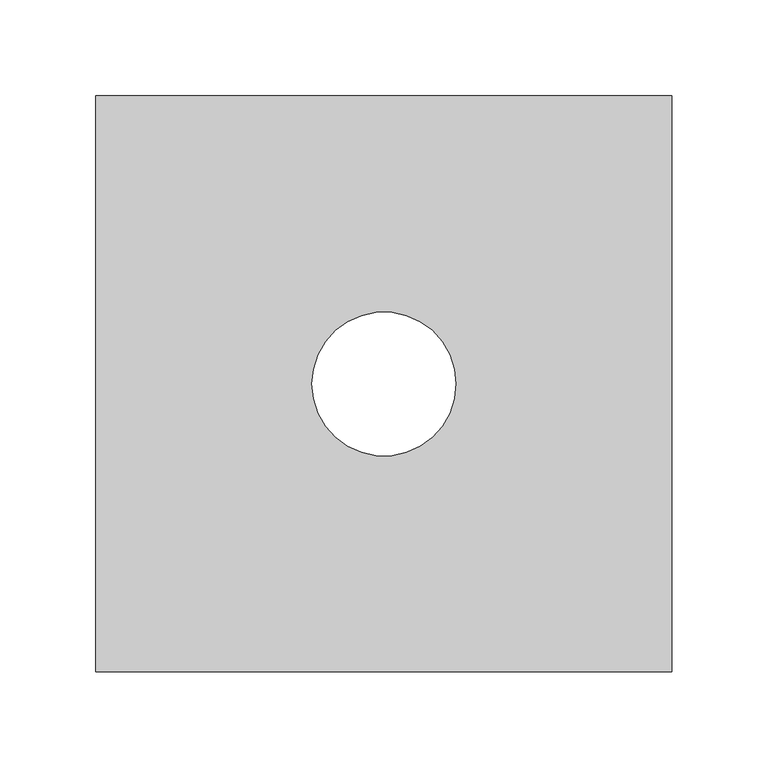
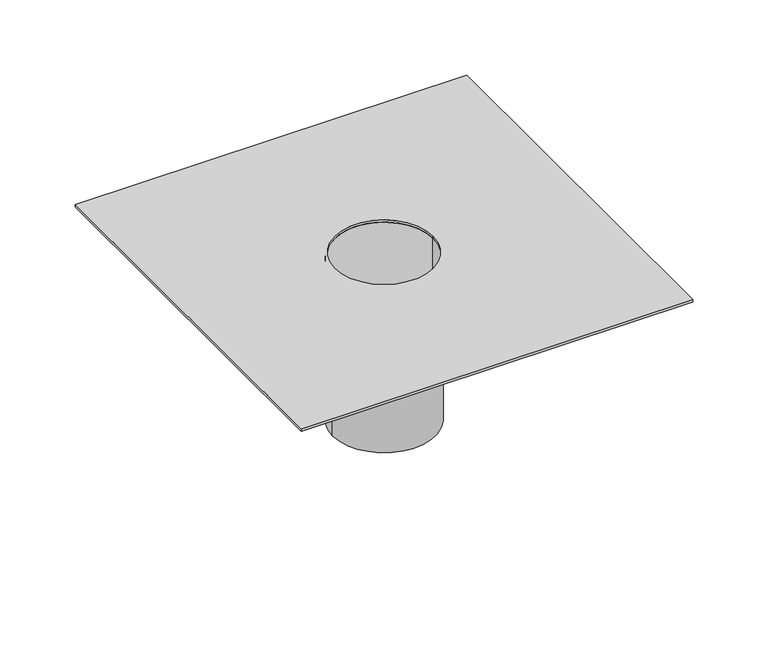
"""IFC4 building model written with IfcOpenShell, lengths in millimetres: proxy geometry, Viaboc Ralo 75mm : Viaboc Ralo 75mm."""

import ifcopenshell
import ifcopenshell.guid

model = None  # the IFC model being written
_history = None  # IfcOwnerHistory: only IFC2X3 demands one
_inside = {}  # id of a spatial element -> (the spatial element, [elements in it])
_under = {}  # id of a project, library or spatial element -> (it, [spatial elements below it])
_declared = {}  # id of a project -> (the project, [libraries it declares])
_typed = {}  # id of a type object -> (the type object, [elements of that type])
_made_of = {}  # id of a material, layer set ... -> (it, [elements and type objects made of it])


def new_model(schema):
    """Start an empty IFC model of exactly this schema.

    Asked for "IFC4X3", IfcOpenShell would pick the latest addendum, in which some entities
    have other attributes; the version numbers below select the first issue.
    IFC2X3 requires an IfcOwnerHistory on every rooted entity: one is made here for all.
    """
    global model, _history
    if schema == "IFC4X3":
        model = ifcopenshell.file(schema_version=(4, 3, 0, 0))
    else:
        model = ifcopenshell.file(schema=schema)
    _inside.clear()
    _under.clear()
    _declared.clear()
    _typed.clear()
    _made_of.clear()
    _history = None
    if model.schema == "IFC2X3":
        org = make("IfcOrganization", Name="unknown")
        user = make(
            "IfcPersonAndOrganization",
            ThePerson=make("IfcPerson", FamilyName="unknown"),
            TheOrganization=org,
        )
        app = make(
            "IfcApplication",
            ApplicationDeveloper=org,
            Version="unknown",
            ApplicationFullName="unknown",
            ApplicationIdentifier="unknown",
        )
        _history = make(
            "IfcOwnerHistory",
            OwningUser=user,
            OwningApplication=app,
            ChangeAction="ADDED",
            CreationDate=0,
        )
    return model


def make(cls, **values):
    """One entity of the class cls with the attributes given. An attribute that is None is left unset."""
    return model.create_entity(
        cls, **{name: value for name, value in values.items() if value is not None}
    )


def rooted(cls, **values):
    """An entity with a GlobalId (a new one), such as an element, a storey or a relation."""
    return make(cls, GlobalId=ifcopenshell.guid.new(), OwnerHistory=_history, **values)


def si_unit(unit_type, name, prefix=None):
    """IfcSIUnit, for example si_unit("LENGTHUNIT", "METRE", prefix="MILLI")."""
    return make("IfcSIUnit", UnitType=unit_type, Prefix=prefix, Name=name)


def assignment(units):
    """IfcUnitAssignment: the units of a project."""
    return None if units is None else make("IfcUnitAssignment", Units=units)


def point(xyz):
    """IfcCartesianPoint."""
    return None if xyz is None else make("IfcCartesianPoint", Coordinates=xyz)


def direction(xyz):
    """IfcDirection."""
    return None if xyz is None else make("IfcDirection", DirectionRatios=xyz)


def frame(location, z_axis=None, x_axis=None):
    """IfcAxis2Placement3D, a coordinate frame: its origin and axes. An axis left out is left unset."""
    return make(
        "IfcAxis2Placement3D",
        Location=point(location),
        Axis=direction(z_axis),
        RefDirection=direction(x_axis),
    )


def frame_2d(location, x_axis=None):
    """IfcAxis2Placement2D, a coordinate frame in the plane: its origin and x axis."""
    return make(
        "IfcAxis2Placement2D", Location=point(location), RefDirection=direction(x_axis)
    )


def origin():
    """The frame at (0, 0, 0) with its axes left unset."""
    return frame((0.0, 0.0, 0.0))


def origin_with_axes():
    """The frame at (0, 0, 0) with the z axis (0, 0, 1) and the x axis (1, 0, 0) written out."""
    return frame((0.0, 0.0, 0.0), z_axis=(0.0, 0.0, 1.0), x_axis=(1.0, 0.0, 0.0))


def origin_2d():
    """The frame at (0, 0) in the plane with its x axis left unset."""
    return frame_2d((0.0, 0.0))


def place(relative_to, where):
    """IfcLocalPlacement: puts the frame where relative to a parent placement (None: the world)."""
    return make(
        "IfcLocalPlacement", PlacementRelTo=relative_to, RelativePlacement=where
    )


def context(
    kind, dimensions, precision=None, world=None, true_north=None, identifier=None
):
    """IfcGeometricRepresentationContext, for example the 3D "Model" context."""
    return make(
        "IfcGeometricRepresentationContext",
        ContextIdentifier=identifier,
        ContextType=kind,
        CoordinateSpaceDimension=dimensions,
        Precision=precision,
        WorldCoordinateSystem=world,
        TrueNorth=true_north,
    )


def project(units=None, contexts=None):
    """IfcProject with its units and contexts."""
    return rooted(
        "IfcProject",
        Name="project",
        RepresentationContexts=contexts,
        UnitsInContext=assignment(units),
    )


def spatial(cls, under=None, at=None, **own):
    """A site, building, storey or space (cls), placed at a placement, below another one or the project."""
    s = rooted(cls, ObjectPlacement=at, **own)
    if under is not None:
        _under.setdefault(under.id(), (under, []))[1].append(s)
    return s


def polyline(points):
    """IfcPolyline through the points."""
    return make("IfcPolyline", Points=[point(p) for p in points])


def circle_curve(where, radius):
    """IfcCircle in the frame where."""
    return make("IfcCircle", Position=where, Radius=radius)


def trimmed(basis, trim1, trim2, sense, master):
    """IfcTrimmedCurve: the piece of a basis curve between two trims."""
    return make(
        "IfcTrimmedCurve",
        BasisCurve=basis,
        Trim1=trim1,
        Trim2=trim2,
        SenseAgreement=sense,
        MasterRepresentation=master,
    )


def segment(curve, same_sense, transition):
    """IfcCompositeCurveSegment."""
    return make(
        "IfcCompositeCurveSegment",
        Transition=transition,
        SameSense=same_sense,
        ParentCurve=curve,
    )


def composite_curve(segments, self_intersect=None):
    """IfcCompositeCurve: segments joined end to end."""
    return make("IfcCompositeCurve", Segments=segments, SelfIntersect=self_intersect)


def outline(outer, holes=None, kind="AREA"):
    """IfcArbitraryClosedProfileDef: a profile drawn as a closed curve; with holes, ...WithVoids."""
    if holes is None:
        return make("IfcArbitraryClosedProfileDef", ProfileType=kind, OuterCurve=outer)
    return make(
        "IfcArbitraryProfileDefWithVoids",
        ProfileType=kind,
        OuterCurve=outer,
        InnerCurves=holes,
    )


def extrude(swept, where, along, depth):
    """IfcExtrudedAreaSolid: the profile swept, set in the frame where, extruded along a direction by depth."""
    return make(
        "IfcExtrudedAreaSolid",
        SweptArea=swept,
        Position=where,
        ExtrudedDirection=direction(along),
        Depth=depth,
    )


def shape(context_of_items, identifier, shape_type, items):
    """IfcShapeRepresentation: the items that make up one representation, for example the "Body"."""
    return make(
        "IfcShapeRepresentation",
        ContextOfItems=context_of_items,
        RepresentationIdentifier=identifier,
        RepresentationType=shape_type,
        Items=items,
    )


def source(mapping_origin, context_of_items, identifier, shape_type, items):
    """IfcRepresentationMap: a shape defined once, which mapped items show again and again."""
    return make(
        "IfcRepresentationMap",
        MappingOrigin=mapping_origin,
        MappedRepresentation=shape(context_of_items, identifier, shape_type, items),
    )


def transform(
    local_origin,
    x_axis=None,
    y_axis=None,
    z_axis=None,
    scale=None,
    scale2=None,
    scale3=None,
    uniform=True,
):
    """IfcCartesianTransformationOperator3D, or its non-uniform kind. x_axis, y_axis, z_axis: its Axis1, 2, 3."""
    if uniform:
        return make(
            "IfcCartesianTransformationOperator3D",
            Axis1=direction(x_axis),
            Axis2=direction(y_axis),
            LocalOrigin=point(local_origin),
            Scale=scale,
            Axis3=direction(z_axis),
        )
    return make(
        "IfcCartesianTransformationOperator3DnonUniform",
        Axis1=direction(x_axis),
        Axis2=direction(y_axis),
        LocalOrigin=point(local_origin),
        Scale=scale,
        Axis3=direction(z_axis),
        Scale2=scale2,
        Scale3=scale3,
    )


def mapped(mapping_source, mapping_target):
    """IfcMappedItem: shows the shape of a source again, moved by a transform."""
    return make(
        "IfcMappedItem", MappingSource=mapping_source, MappingTarget=mapping_target
    )


def made_of(thing, what):
    """Note that an element or type object is made of a material, layer set ...; save() writes the relation."""
    if what is not None:
        _made_of.setdefault(what.id(), (what, []))[1].append(thing)
    return thing


def element(
    cls,
    number,
    at=None,
    inside=None,
    cuts=None,
    type_object=None,
    material=None,
    context=None,
    identifier="Body",
    shape_type=None,
    held_by="IfcProductDefinitionShape",
    body=None,
    shapes=None,
    **own,
):
    """One element of the class cls, such as IfcWall. Its Tag is "e" and its number.

    at: its placement. inside: the storey or other place that contains it. cuts: it is an
    opening in that element (IfcRelVoidsElement). A single representation is given by context,
    identifier, shape_type and body (its items); several are given by shapes. held_by: the class
    of the entity that holds the representations. save() writes the other relations.
    """
    e = rooted(cls, Tag="e%d" % number, ObjectPlacement=at, **own)
    if body is not None:
        shapes = [shape(context, identifier, shape_type, body)]
    if shapes is not None:
        e.Representation = make(held_by, Representations=shapes)
    if inside is not None:
        _inside.setdefault(inside.id(), (inside, []))[1].append(e)
    if cuts is not None:
        rooted(
            "IfcRelVoidsElement", RelatingBuildingElement=cuts, RelatedOpeningElement=e
        )
    if type_object is not None:
        _typed.setdefault(type_object.id(), (type_object, []))[1].append(e)
    return made_of(e, material)


def aggregate(whole, parts):
    """IfcRelAggregates: a whole, such as a stair, and the parts it consists of."""
    return rooted("IfcRelAggregates", RelatingObject=whole, RelatedObjects=parts)


def save(model, path):
    """Write the relations noted so far, then the file.

    IfcRelAggregates (storeys below a building ...), IfcRelContainedInSpatialStructure (elements
    in a storey), IfcRelDefinesByType, IfcRelAssociatesMaterial and IfcRelDeclares: one each for
    every whole, place, type object, material and project.
    """
    for whole, parts in _under.values():
        aggregate(whole, parts)
    for where, things in _inside.values():
        rooted(
            "IfcRelContainedInSpatialStructure",
            RelatedElements=things,
            RelatingStructure=where,
        )
    for kind, things in _typed.values():
        rooted("IfcRelDefinesByType", RelatedObjects=things, RelatingType=kind)
    for what, things in _made_of.values():
        rooted("IfcRelAssociatesMaterial", RelatedObjects=things, RelatingMaterial=what)
    for by, libraries in _declared.values():
        rooted("IfcRelDeclares", RelatingContext=by, RelatedDefinitions=libraries)
    model.write(path)


def entourage_f4fae19a(model_context):
    return source(origin(), model_context, "Body", "SweptSolid", [
        extrude(outline(composite_curve([segment(trimmed(circle_curve(origin_2d(), 39.5), [point((-39.5, 0.0))], [point((39.5, 0.0))], False, "CARTESIAN"), True, "CONTINUOUS"), segment(trimmed(circle_curve(origin_2d(), 39.5), [point((39.5, 0.0))], [point((-39.5, 0.0))], False, "CARTESIAN"), True, "CONTINUOUS")], self_intersect=False), holes=[composite_curve([segment(trimmed(circle_curve(origin_2d(), 37.5), [point((37.5, 0.0))], [point((-37.5, 0.0))], True, "CARTESIAN"), True, "CONTINUOUS"), segment(trimmed(circle_curve(origin_2d(), 37.5), [point((-37.5, 0.0))], [point((37.5, 0.0))], True, "CARTESIAN"), True, "CONTINUOUS")], self_intersect=False)]), frame((0.0, 0.0, -133.0), z_axis=(0.0, 0.0, 1.0), x_axis=(1.0, 0.0, 0.0)), (0.0, 0.0, 1.0), 133.0),
        extrude(outline(polyline([(150.0, 150.0), (150.0, -150.0), (-150.0, -150.0), (-150.0, 150.0), (150.0, 150.0)]), holes=[composite_curve([segment(trimmed(circle_curve(origin_2d(), 37.5), [point((-37.5, 0.0))], [point((37.5, 0.0))], True, "CARTESIAN"), True, "CONTINUOUS"), segment(trimmed(circle_curve(origin_2d(), 37.5), [point((37.5, 0.0))], [point((-37.5, 0.0))], True, "CARTESIAN"), True, "CONTINUOUS")], self_intersect=False)]), origin_with_axes(), (0.0, 0.0, 1.0), 2.0),
    ])


if __name__ == "__main__":
    model = new_model("IFC4")
    model_context = context("Model", 3, world=origin())
    ifc_project = project(units=[si_unit("LENGTHUNIT", "METRE", prefix="MILLI")], contexts=[model_context])
    site = spatial("IfcSite", under=ifc_project)
    building = spatial("IfcBuilding", under=site)
    placement = place(None, origin())
    entourage_shape = entourage_f4fae19a(model_context)
    element("IfcBuildingElementProxy", 1, Name="Viaboc Ralo 75mm : Viaboc Ralo 75mm", ObjectType="Viaboc Ralo 75mm : Viaboc Ralo 75mm", at=placement, inside=building, context=model_context, shape_type="MappedRepresentation", body=[
        mapped(entourage_shape, transform((0.0, 0.0, 0.0), x_axis=(1.0, 0.0, 0.0), y_axis=(0.0, 1.0, 0.0), z_axis=(0.0, 0.0, 1.0))),
    ])
    save(model, "model.ifc")
